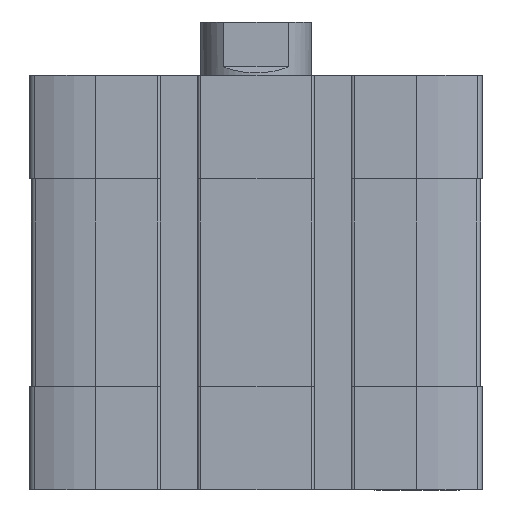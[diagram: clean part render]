
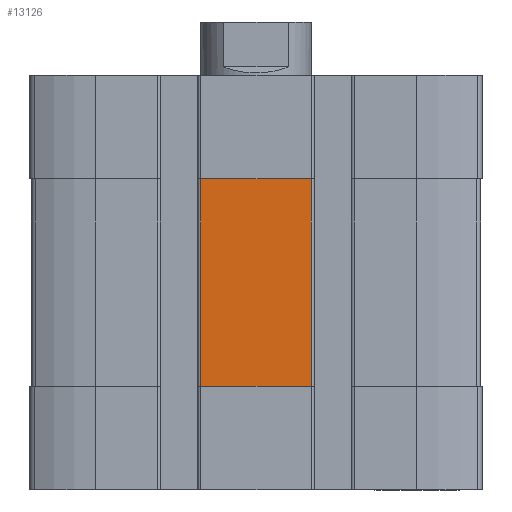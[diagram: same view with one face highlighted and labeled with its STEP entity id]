
A CAD part, front view. The second image highlights one B-rep face of the part: STEP entity #13126.
In plain terms, the highlighted planar face has unit normal (0, -1, 0).
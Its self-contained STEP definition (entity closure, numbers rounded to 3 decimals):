
#39 = CARTESIAN_POINT ( 'NONE',  ( -8., -32.5, -45. ) ) ;
#169 = VERTEX_POINT ( 'NONE', #15044 ) ;
#243 = VERTEX_POINT ( 'NONE', #8133 ) ;
#588 = VECTOR ( 'NONE', #8182, 1000. ) ;
#2406 = DIRECTION ( 'NONE',  ( 0., 0., -1. ) ) ;
#2467 = EDGE_CURVE ( 'NONE', #243, #11950, #7241, .T. ) ;
#2919 = CARTESIAN_POINT ( 'NONE',  ( 8., -32.5, -45. ) ) ;
#4869 = CARTESIAN_POINT ( 'NONE',  ( -8., -32.5, -15. ) ) ;
#5117 = EDGE_CURVE ( 'NONE', #5813, #169, #11789, .T. ) ;
#5813 = VERTEX_POINT ( 'NONE', #8469 ) ;
#5895 = VECTOR ( 'NONE', #6010, 1000. ) ;
#6010 = DIRECTION ( 'NONE',  ( 1., 0., 0. ) ) ;
#6628 = ORIENTED_EDGE ( 'NONE', *, *, #8848, .T. ) ;
#7131 = ORIENTED_EDGE ( 'NONE', *, *, #2467, .T. ) ;
#7241 = LINE ( 'NONE', #9347, #588 ) ;
#7263 = ORIENTED_EDGE ( 'NONE', *, *, #12184, .T. ) ;
#7319 = VECTOR ( 'NONE', #9629, 1000. ) ;
#7433 = EDGE_LOOP ( 'NONE', ( #13672, #7263, #7131, #6628 ) ) ;
#7887 = AXIS2_PLACEMENT_3D ( 'NONE', #39, #9497, #2406 ) ;
#8133 = CARTESIAN_POINT ( 'NONE',  ( 8., -32.5, -15. ) ) ;
#8182 = DIRECTION ( 'NONE',  ( -1., 0., 0. ) ) ;
#8313 = PLANE ( 'NONE',  #7887 ) ;
#8448 = CARTESIAN_POINT ( 'NONE',  ( -8., -32.5, -45. ) ) ;
#8469 = CARTESIAN_POINT ( 'NONE',  ( -8., -32.5, -45. ) ) ;
#8848 = EDGE_CURVE ( 'NONE', #11950, #5813, #10450, .T. ) ;
#9347 = CARTESIAN_POINT ( 'NONE',  ( 0., -32.5, -15. ) ) ;
#9497 = DIRECTION ( 'NONE',  ( 0., -1., 0. ) ) ;
#9629 = DIRECTION ( 'NONE',  ( 0., 0., -1. ) ) ;
#9941 = DIRECTION ( 'NONE',  ( 0., 0., 1. ) ) ;
#10450 = LINE ( 'NONE', #8448, #7319 ) ;
#11789 = LINE ( 'NONE', #11869, #5895 ) ;
#11869 = CARTESIAN_POINT ( 'NONE',  ( -8., -32.5, -45. ) ) ;
#11950 = VERTEX_POINT ( 'NONE', #4869 ) ;
#12184 = EDGE_CURVE ( 'NONE', #169, #243, #13547, .T. ) ;
#13126 = ADVANCED_FACE ( 'NONE', ( #14281 ), #8313, .T. ) ;
#13547 = LINE ( 'NONE', #2919, #13902 ) ;
#13672 = ORIENTED_EDGE ( 'NONE', *, *, #5117, .T. ) ;
#13902 = VECTOR ( 'NONE', #9941, 1000. ) ;
#14281 = FACE_OUTER_BOUND ( 'NONE', #7433, .T. ) ;
#15044 = CARTESIAN_POINT ( 'NONE',  ( 8., -32.5, -45. ) ) ;
